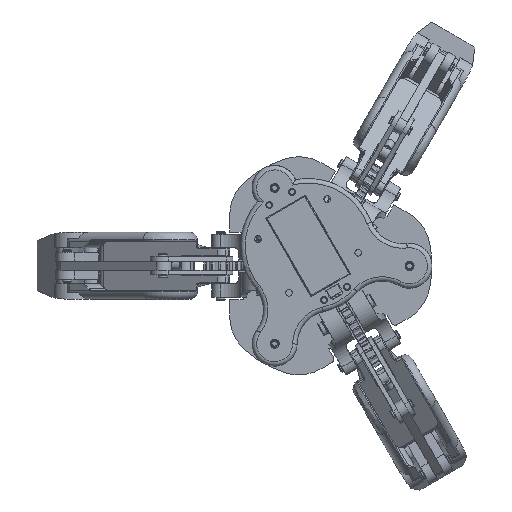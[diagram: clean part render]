
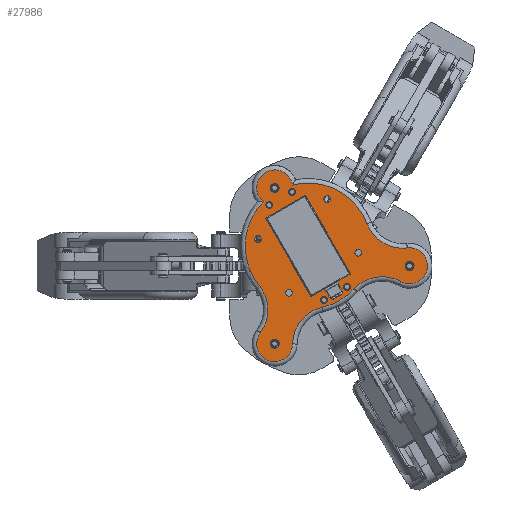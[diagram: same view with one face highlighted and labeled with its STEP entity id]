
A CAD part, front view. The second image highlights one B-rep face of the part: STEP entity #27986.
In plain terms, the highlighted planar face has unit normal (0, -1, 0) as drawn and (0, 0, 1) by its records, which use the part's own axes.
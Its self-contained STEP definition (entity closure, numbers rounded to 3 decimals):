
#1020=FACE_BOUND('',#10833,.T.);
#1021=FACE_BOUND('',#10834,.T.);
#1022=FACE_BOUND('',#10835,.T.);
#1023=FACE_BOUND('',#10836,.T.);
#1024=FACE_BOUND('',#10837,.T.);
#1025=FACE_BOUND('',#10838,.T.);
#1026=FACE_BOUND('',#10839,.T.);
#1027=FACE_BOUND('',#10840,.T.);
#1028=FACE_BOUND('',#10841,.T.);
#1029=FACE_BOUND('',#10842,.T.);
#1030=FACE_BOUND('',#10843,.T.);
#1031=FACE_BOUND('',#10844,.T.);
#3133=LINE('',#83784,#5266);
#3134=LINE('',#83786,#5267);
#3135=LINE('',#83788,#5268);
#3136=LINE('',#83789,#5269);
#5266=VECTOR('',#38060,10.);
#5267=VECTOR('',#38061,10.);
#5268=VECTOR('',#38062,10.);
#5269=VECTOR('',#38063,10.);
#6406=CIRCLE('',#30783,1.5);
#6408=CIRCLE('',#30786,1.5);
#6410=CIRCLE('',#30789,1.5);
#6412=CIRCLE('',#30792,1.5);
#6428=CIRCLE('',#30810,8.);
#6432=CIRCLE('',#30815,28.);
#6434=CIRCLE('',#30818,17.);
#6437=CIRCLE('',#30822,8.);
#6441=CIRCLE('',#30827,17.);
#6444=CIRCLE('',#30831,28.);
#6447=CIRCLE('',#30835,17.);
#6450=CIRCLE('',#30839,8.);
#6454=CIRCLE('',#30844,17.);
#6456=CIRCLE('',#30847,28.);
#6462=CIRCLE('',#30859,2.);
#6463=CIRCLE('',#30860,2.);
#6464=CIRCLE('',#30861,2.);
#6465=CIRCLE('',#30862,1.5);
#6466=CIRCLE('',#30863,1.5);
#6467=CIRCLE('',#30864,1.5);
#6468=CIRCLE('',#30865,1.5);
#7661=PLANE('',#30858);
#9145=FACE_OUTER_BOUND('',#10832,.T.);
#10832=EDGE_LOOP('',(#26306,#26307,#26308,#26309,#26310,#26311,#26312,#26313,
#26314,#26315));
#10833=EDGE_LOOP('',(#26316));
#10834=EDGE_LOOP('',(#26317));
#10835=EDGE_LOOP('',(#26318));
#10836=EDGE_LOOP('',(#26319));
#10837=EDGE_LOOP('',(#26320));
#10838=EDGE_LOOP('',(#26321));
#10839=EDGE_LOOP('',(#26322));
#10840=EDGE_LOOP('',(#26323,#26324,#26325,#26326));
#10841=EDGE_LOOP('',(#26327));
#10842=EDGE_LOOP('',(#26328));
#10843=EDGE_LOOP('',(#26329));
#10844=EDGE_LOOP('',(#26330));
#14175=VERTEX_POINT('',#83572);
#14177=VERTEX_POINT('',#83578);
#14179=VERTEX_POINT('',#83584);
#14181=VERTEX_POINT('',#83590);
#14203=VERTEX_POINT('',#83646);
#14204=VERTEX_POINT('',#83647);
#14208=VERTEX_POINT('',#83683);
#14210=VERTEX_POINT('',#83688);
#14212=VERTEX_POINT('',#83694);
#14215=VERTEX_POINT('',#83702);
#14217=VERTEX_POINT('',#83708);
#14219=VERTEX_POINT('',#83714);
#14221=VERTEX_POINT('',#83720);
#14224=VERTEX_POINT('',#83728);
#14229=VERTEX_POINT('',#83776);
#14230=VERTEX_POINT('',#83778);
#14231=VERTEX_POINT('',#83780);
#14232=VERTEX_POINT('',#83782);
#14233=VERTEX_POINT('',#83783);
#14234=VERTEX_POINT('',#83785);
#14235=VERTEX_POINT('',#83787);
#14236=VERTEX_POINT('',#83790);
#14237=VERTEX_POINT('',#83792);
#14238=VERTEX_POINT('',#83794);
#14239=VERTEX_POINT('',#83796);
#18198=EDGE_CURVE('',#14175,#14175,#6406,.T.);
#18201=EDGE_CURVE('',#14177,#14177,#6408,.T.);
#18204=EDGE_CURVE('',#14179,#14179,#6410,.T.);
#18207=EDGE_CURVE('',#14181,#14181,#6412,.T.);
#18230=EDGE_CURVE('',#14203,#14204,#6428,.T.);
#18236=EDGE_CURVE('',#14208,#14203,#6432,.T.);
#18238=EDGE_CURVE('',#14210,#14208,#6434,.T.);
#18241=EDGE_CURVE('',#14212,#14210,#6437,.T.);
#18245=EDGE_CURVE('',#14215,#14212,#6441,.T.);
#18248=EDGE_CURVE('',#14217,#14215,#6444,.T.);
#18251=EDGE_CURVE('',#14219,#14217,#6447,.T.);
#18254=EDGE_CURVE('',#14221,#14219,#6450,.T.);
#18258=EDGE_CURVE('',#14224,#14221,#6454,.T.);
#18260=EDGE_CURVE('',#14204,#14224,#6456,.T.);
#18275=EDGE_CURVE('',#14229,#14229,#6462,.T.);
#18276=EDGE_CURVE('',#14230,#14230,#6463,.T.);
#18277=EDGE_CURVE('',#14231,#14231,#6464,.T.);
#18278=EDGE_CURVE('',#14232,#14233,#3133,.T.);
#18279=EDGE_CURVE('',#14233,#14234,#3134,.T.);
#18280=EDGE_CURVE('',#14234,#14235,#3135,.T.);
#18281=EDGE_CURVE('',#14235,#14232,#3136,.T.);
#18282=EDGE_CURVE('',#14236,#14236,#6465,.T.);
#18283=EDGE_CURVE('',#14237,#14237,#6466,.T.);
#18284=EDGE_CURVE('',#14238,#14238,#6467,.T.);
#18285=EDGE_CURVE('',#14239,#14239,#6468,.T.);
#26306=ORIENTED_EDGE('',*,*,#18230,.F.);
#26307=ORIENTED_EDGE('',*,*,#18236,.F.);
#26308=ORIENTED_EDGE('',*,*,#18238,.F.);
#26309=ORIENTED_EDGE('',*,*,#18241,.F.);
#26310=ORIENTED_EDGE('',*,*,#18245,.F.);
#26311=ORIENTED_EDGE('',*,*,#18248,.F.);
#26312=ORIENTED_EDGE('',*,*,#18251,.F.);
#26313=ORIENTED_EDGE('',*,*,#18254,.F.);
#26314=ORIENTED_EDGE('',*,*,#18258,.F.);
#26315=ORIENTED_EDGE('',*,*,#18260,.F.);
#26316=ORIENTED_EDGE('',*,*,#18198,.T.);
#26317=ORIENTED_EDGE('',*,*,#18201,.T.);
#26318=ORIENTED_EDGE('',*,*,#18204,.T.);
#26319=ORIENTED_EDGE('',*,*,#18207,.T.);
#26320=ORIENTED_EDGE('',*,*,#18275,.T.);
#26321=ORIENTED_EDGE('',*,*,#18276,.T.);
#26322=ORIENTED_EDGE('',*,*,#18277,.T.);
#26323=ORIENTED_EDGE('',*,*,#18278,.T.);
#26324=ORIENTED_EDGE('',*,*,#18279,.T.);
#26325=ORIENTED_EDGE('',*,*,#18280,.T.);
#26326=ORIENTED_EDGE('',*,*,#18281,.T.);
#26327=ORIENTED_EDGE('',*,*,#18282,.T.);
#26328=ORIENTED_EDGE('',*,*,#18283,.T.);
#26329=ORIENTED_EDGE('',*,*,#18284,.T.);
#26330=ORIENTED_EDGE('',*,*,#18285,.T.);
#27986=ADVANCED_FACE('',(#9145,#1020,#1021,#1022,#1023,#1024,#1025,#1026,
#1027,#1028,#1029,#1030,#1031),#7661,.T.);
#30783=AXIS2_PLACEMENT_3D('',#83573,#37887,#37888);
#30786=AXIS2_PLACEMENT_3D('',#83579,#37894,#37895);
#30789=AXIS2_PLACEMENT_3D('',#83585,#37901,#37902);
#30792=AXIS2_PLACEMENT_3D('',#83591,#37908,#37909);
#30810=AXIS2_PLACEMENT_3D('',#83648,#37949,#37950);
#30815=AXIS2_PLACEMENT_3D('',#83685,#37959,#37960);
#30818=AXIS2_PLACEMENT_3D('',#83690,#37965,#37966);
#30822=AXIS2_PLACEMENT_3D('',#83696,#37973,#37974);
#30827=AXIS2_PLACEMENT_3D('',#83704,#37983,#37984);
#30831=AXIS2_PLACEMENT_3D('',#83710,#37991,#37992);
#30835=AXIS2_PLACEMENT_3D('',#83716,#37999,#38000);
#30839=AXIS2_PLACEMENT_3D('',#83722,#38007,#38008);
#30844=AXIS2_PLACEMENT_3D('',#83730,#38017,#38018);
#30847=AXIS2_PLACEMENT_3D('',#83733,#38023,#38024);
#30858=AXIS2_PLACEMENT_3D('',#83775,#38052,#38053);
#30859=AXIS2_PLACEMENT_3D('',#83777,#38054,#38055);
#30860=AXIS2_PLACEMENT_3D('',#83779,#38056,#38057);
#30861=AXIS2_PLACEMENT_3D('',#83781,#38058,#38059);
#30862=AXIS2_PLACEMENT_3D('',#83791,#38064,#38065);
#30863=AXIS2_PLACEMENT_3D('',#83793,#38066,#38067);
#30864=AXIS2_PLACEMENT_3D('',#83795,#38068,#38069);
#30865=AXIS2_PLACEMENT_3D('',#83797,#38070,#38071);
#37887=DIRECTION('center_axis',(0.,0.,-1.));
#37888=DIRECTION('ref_axis',(1.,0.,0.));
#37894=DIRECTION('center_axis',(0.,0.,-1.));
#37895=DIRECTION('ref_axis',(1.,0.,0.));
#37901=DIRECTION('center_axis',(0.,0.,-1.));
#37902=DIRECTION('ref_axis',(1.,0.,0.));
#37908=DIRECTION('center_axis',(0.,0.,-1.));
#37909=DIRECTION('ref_axis',(1.,0.,0.));
#37949=DIRECTION('center_axis',(0.,0.,-1.));
#37950=DIRECTION('ref_axis',(1.,0.,0.));
#37959=DIRECTION('center_axis',(0.,0.,-1.));
#37960=DIRECTION('ref_axis',(0.512,0.859,0.));
#37965=DIRECTION('center_axis',(0.,0.,1.));
#37966=DIRECTION('ref_axis',(-0.483,-0.876,0.));
#37973=DIRECTION('center_axis',(0.,0.,-1.));
#37974=DIRECTION('ref_axis',(-0.657,0.754,0.));
#37983=DIRECTION('center_axis',(0.,0.,1.));
#37984=DIRECTION('ref_axis',(0.933,0.359,0.));
#37991=DIRECTION('center_axis',(0.,0.,-1.));
#37992=DIRECTION('ref_axis',(-1.,0.,0.));
#37999=DIRECTION('center_axis',(0.,0.,1.));
#38000=DIRECTION('ref_axis',(0.933,-0.359,0.));
#38007=DIRECTION('center_axis',(0.,0.,-1.));
#38008=DIRECTION('ref_axis',(-0.657,-0.754,0.));
#38017=DIRECTION('center_axis',(0.,0.,1.));
#38018=DIRECTION('ref_axis',(-0.483,0.875,0.));
#38023=DIRECTION('center_axis',(0.,0.,-1.));
#38024=DIRECTION('ref_axis',(0.512,-0.859,0.));
#38052=DIRECTION('center_axis',(0.,0.,1.));
#38053=DIRECTION('ref_axis',(1.,0.,0.));
#38054=DIRECTION('center_axis',(0.,0.,-1.));
#38055=DIRECTION('ref_axis',(1.,0.,0.));
#38056=DIRECTION('center_axis',(0.,0.,-1.));
#38057=DIRECTION('ref_axis',(1.,0.,0.));
#38058=DIRECTION('center_axis',(0.,0.,-1.));
#38059=DIRECTION('ref_axis',(1.,0.,0.));
#38060=DIRECTION('',(-1.,0.,0.));
#38061=DIRECTION('',(0.,1.,0.));
#38062=DIRECTION('',(1.,0.,0.));
#38063=DIRECTION('',(0.,-1.,0.));
#38064=DIRECTION('center_axis',(0.,0.,-1.));
#38065=DIRECTION('ref_axis',(-1.,0.,0.));
#38066=DIRECTION('center_axis',(0.,0.,-1.));
#38067=DIRECTION('ref_axis',(-1.,0.,0.));
#38068=DIRECTION('center_axis',(0.,0.,-1.));
#38069=DIRECTION('ref_axis',(-1.,0.,0.));
#38070=DIRECTION('center_axis',(0.,0.,-1.));
#38071=DIRECTION('ref_axis',(-1.,0.,0.));
#83572=CARTESIAN_POINT('',(-42.606,7.917,10.));
#83573=CARTESIAN_POINT('Origin',(-41.106,7.917,10.));
#83578=CARTESIAN_POINT('',(-15.054,7.917,10.));
#83579=CARTESIAN_POINT('Origin',(-13.554,7.917,10.));
#83584=CARTESIAN_POINT('',(-42.606,-27.662,10.));
#83585=CARTESIAN_POINT('Origin',(-41.106,-27.662,10.));
#83590=CARTESIAN_POINT('',(-15.054,-27.662,10.));
#83591=CARTESIAN_POINT('Origin',(-13.554,-27.662,10.));
#83646=CARTESIAN_POINT('',(-0.347,-2.395,10.));
#83647=CARTESIAN_POINT('',(-0.348,-17.353,10.));
#83648=CARTESIAN_POINT('Origin',(2.492,-9.875,10.));
#83683=CARTESIAN_POINT('',(-31.793,17.77,10.));
#83685=CARTESIAN_POINT('Origin',(-27.33,-9.872,10.));
#83688=CARTESIAN_POINT('',(-50.146,27.898,10.));
#83690=CARTESIAN_POINT('Origin',(-34.503,34.552,10.));
#83694=CARTESIAN_POINT('',(-61.618,17.903,10.));
#83696=CARTESIAN_POINT('Origin',(-57.508,24.767,10.));
#83702=CARTESIAN_POINT('',(-54.1,-1.664,10.));
#83704=CARTESIAN_POINT('Origin',(-70.353,3.319,10.));
#83708=CARTESIAN_POINT('',(-54.099,-18.083,10.));
#83710=CARTESIAN_POINT('Origin',(-27.33,-9.872,10.));
#83714=CARTESIAN_POINT('',(-61.618,-37.652,10.));
#83716=CARTESIAN_POINT('Origin',(-70.352,-23.067,10.));
#83720=CARTESIAN_POINT('',(-50.146,-47.646,10.));
#83722=CARTESIAN_POINT('Origin',(-57.508,-44.516,10.));
#83728=CARTESIAN_POINT('',(-31.792,-37.514,10.));
#83730=CARTESIAN_POINT('Origin',(-34.501,-54.297,10.));
#83733=CARTESIAN_POINT('Origin',(-27.33,-9.872,10.));
#83775=CARTESIAN_POINT('Origin',(-27.33,-9.872,10.));
#83776=CARTESIAN_POINT('',(4.492,-9.878,10.));
#83777=CARTESIAN_POINT('Origin',(2.492,-9.875,10.));
#83778=CARTESIAN_POINT('',(-55.508,24.763,10.));
#83779=CARTESIAN_POINT('Origin',(-57.508,24.767,10.));
#83780=CARTESIAN_POINT('',(-55.508,-44.519,10.));
#83781=CARTESIAN_POINT('Origin',(-57.508,-44.516,10.));
#83782=CARTESIAN_POINT('',(-7.33,-20.072,10.));
#83783=CARTESIAN_POINT('',(-47.33,-20.072,10.));
#83784=CARTESIAN_POINT('',(-7.33,-20.072,10.));
#83785=CARTESIAN_POINT('',(-47.33,0.328,10.));
#83786=CARTESIAN_POINT('',(-47.33,-20.072,10.));
#83787=CARTESIAN_POINT('',(-7.33,0.328,10.));
#83788=CARTESIAN_POINT('',(-47.33,0.328,10.));
#83789=CARTESIAN_POINT('',(-7.33,0.328,10.));
#83790=CARTESIAN_POINT('',(-1.43,-15.745,10.));
#83791=CARTESIAN_POINT('Origin',(-2.93,-15.745,10.));
#83792=CARTESIAN_POINT('',(-1.43,-4.,10.));
#83793=CARTESIAN_POINT('Origin',(-2.93,-4.,10.));
#83794=CARTESIAN_POINT('',(-50.23,-15.745,10.));
#83795=CARTESIAN_POINT('Origin',(-51.73,-15.745,10.));
#83796=CARTESIAN_POINT('',(-50.23,-4.,10.));
#83797=CARTESIAN_POINT('Origin',(-51.73,-4.,10.));
